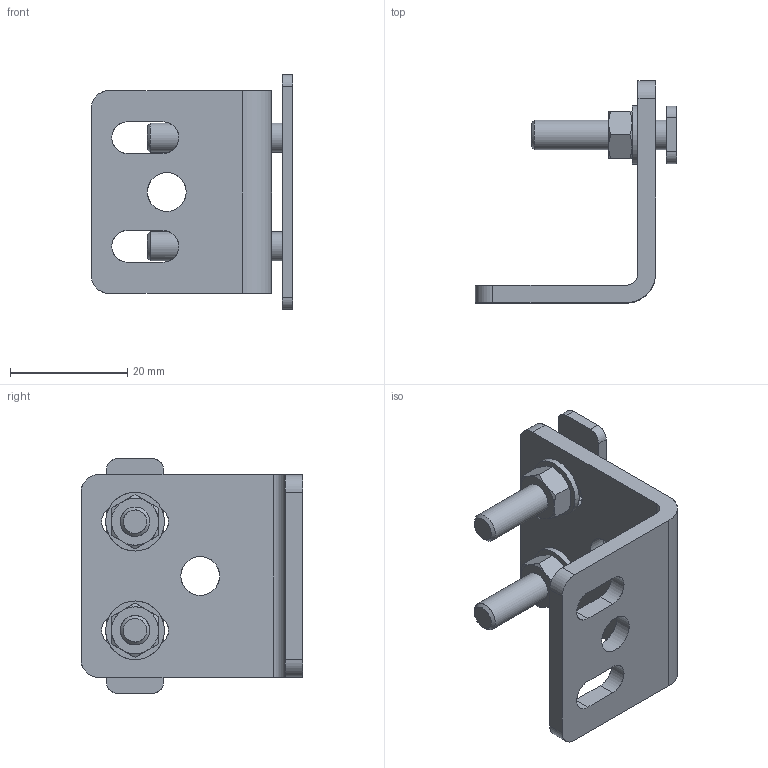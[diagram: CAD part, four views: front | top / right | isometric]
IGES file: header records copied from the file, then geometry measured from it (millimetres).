
Global section: file name: \\bamberg.wienet.ads\dfs\Department\RD\30_Gruppe_RD-PDM\Team\Mitarbeiter\Kötzner_Renate\3-Daten für TC\in Arbeit\P0882-01_Datasensing\R1_690_0001-0018_0\R1_690_0041_0_E_AA_1.igs; native system: NX V2212; preprocessor: SIEMENS PLM Software NX2212.5000; date: 20240212.105118; units: millimetre
Bounding box: 34.3 x 37.8 x 40 mm (x, y, z)
Surface area: 7439.8 mm2 (no closed solid volume)
Topology: 0 solids, 0 shells, 106 faces, 768 edges, 760 vertices
Faces by surface type: bspline 106
